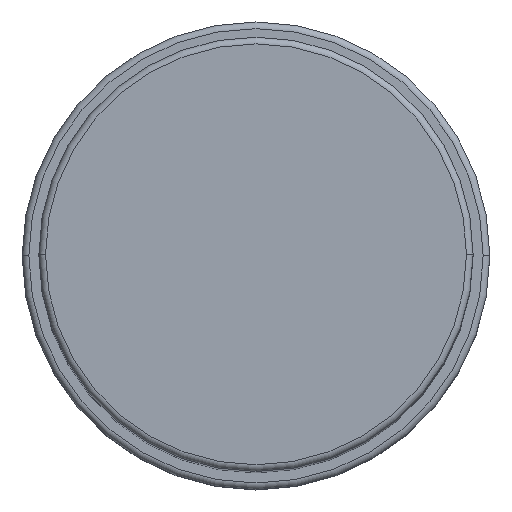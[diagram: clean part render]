
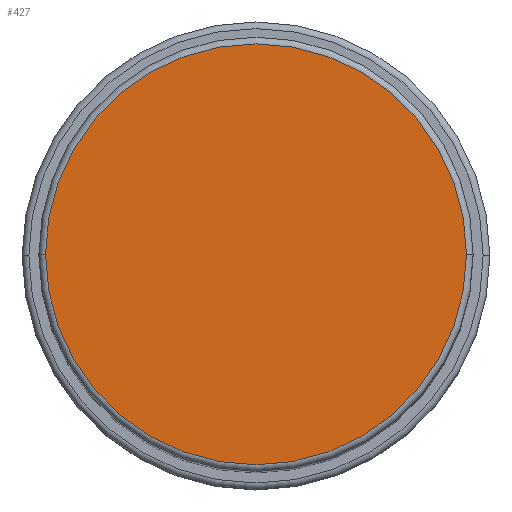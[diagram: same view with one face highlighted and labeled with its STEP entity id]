
A CAD part, top view. The second image highlights one B-rep face of the part: STEP entity #427.
In plain terms, the highlighted planar face has unit normal (0, 0, 1).
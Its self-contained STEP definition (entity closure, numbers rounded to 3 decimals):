
#62 = DIRECTION ( 'NONE',  ( 0., 0., 1. ) ) ;
#66 = PLANE ( 'NONE',  #1489 ) ;
#152 = VERTEX_POINT ( 'NONE', #1633 ) ;
#194 = CARTESIAN_POINT ( 'NONE',  ( 0., 0., 143. ) ) ;
#195 = DIRECTION ( 'NONE',  ( 1., 0., 0. ) ) ;
#219 = VERTEX_POINT ( 'NONE', #645 ) ;
#326 = CIRCLE ( 'NONE', #1139, 31.5 ) ;
#357 = EDGE_LOOP ( 'NONE', ( #1406, #1238 ) ) ;
#427 = ADVANCED_FACE ( 'NONE', ( #1034 ), #66, .T. ) ;
#473 = DIRECTION ( 'NONE',  ( 1., 0., 0. ) ) ;
#645 = CARTESIAN_POINT ( 'NONE',  ( 31.5, 0., 143. ) ) ;
#651 = AXIS2_PLACEMENT_3D ( 'NONE', #957, #1091, #473 ) ;
#699 = DIRECTION ( 'NONE',  ( 0., 0., 1. ) ) ;
#800 = DIRECTION ( 'NONE',  ( 1., 0., 0. ) ) ;
#910 = CIRCLE ( 'NONE', #651, 31.5 ) ;
#957 = CARTESIAN_POINT ( 'NONE',  ( 0., 0., 143. ) ) ;
#983 = EDGE_CURVE ( 'NONE', #219, #152, #326, .T. ) ;
#1034 = FACE_OUTER_BOUND ( 'NONE', #357, .T. ) ;
#1091 = DIRECTION ( 'NONE',  ( 0., 0., 1. ) ) ;
#1139 = AXIS2_PLACEMENT_3D ( 'NONE', #194, #62, #800 ) ;
#1238 = ORIENTED_EDGE ( 'NONE', *, *, #1268, .T. ) ;
#1268 = EDGE_CURVE ( 'NONE', #152, #219, #910, .T. ) ;
#1406 = ORIENTED_EDGE ( 'NONE', *, *, #983, .T. ) ;
#1450 = CARTESIAN_POINT ( 'NONE',  ( 0., 0., 143. ) ) ;
#1489 = AXIS2_PLACEMENT_3D ( 'NONE', #1450, #699, #195 ) ;
#1633 = CARTESIAN_POINT ( 'NONE',  ( -31.5, 0., 143. ) ) ;
